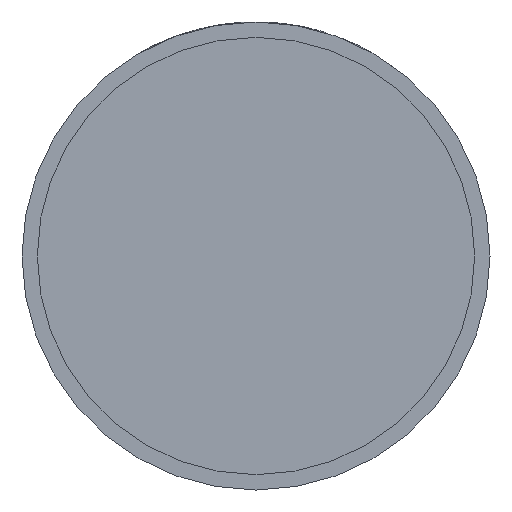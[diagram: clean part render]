
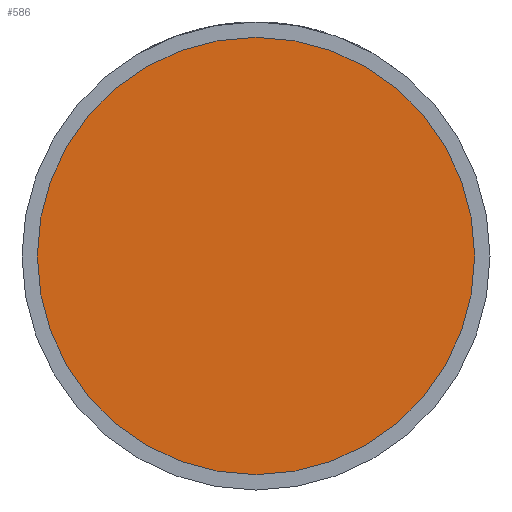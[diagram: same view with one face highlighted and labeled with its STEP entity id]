
A CAD part, front view. The second image highlights one B-rep face of the part: STEP entity #586.
In plain terms, the highlighted planar face has unit normal (0, -1, 0).
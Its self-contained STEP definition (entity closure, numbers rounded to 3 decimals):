
#52 = DIRECTION ( 'NONE',  ( 0., -1., 0. ) ) ;
#66 = EDGE_LOOP ( 'NONE', ( #1967, #1469 ) ) ;
#278 = PLANE ( 'NONE',  #1937 ) ;
#502 = EDGE_CURVE ( 'NONE', #3824, #2307, #3051, .T. ) ;
#586 = ADVANCED_FACE ( 'NONE', ( #2684 ), #278, .T. ) ;
#687 = DIRECTION ( 'NONE',  ( 1., 0., 0. ) ) ;
#1353 = DIRECTION ( 'NONE',  ( 1., 0., 0. ) ) ;
#1469 = ORIENTED_EDGE ( 'NONE', *, *, #502, .T. ) ;
#1478 = CIRCLE ( 'NONE', #1833, 28.5 ) ;
#1833 = AXIS2_PLACEMENT_3D ( 'NONE', #2389, #52, #1353 ) ;
#1937 = AXIS2_PLACEMENT_3D ( 'NONE', #2034, #2344, #687 ) ;
#1967 = ORIENTED_EDGE ( 'NONE', *, *, #3827, .T. ) ;
#2034 = CARTESIAN_POINT ( 'NONE',  ( 28.5, -17.5, 0. ) ) ;
#2307 = VERTEX_POINT ( 'NONE', #3838 ) ;
#2344 = DIRECTION ( 'NONE',  ( 0., -1., 0. ) ) ;
#2353 = AXIS2_PLACEMENT_3D ( 'NONE', #3854, #2890, #2931 ) ;
#2389 = CARTESIAN_POINT ( 'NONE',  ( 0., -17.5, 0. ) ) ;
#2684 = FACE_OUTER_BOUND ( 'NONE', #66, .T. ) ;
#2709 = CARTESIAN_POINT ( 'NONE',  ( -28.5, -17.5, 0. ) ) ;
#2890 = DIRECTION ( 'NONE',  ( 0., -1., 0. ) ) ;
#2931 = DIRECTION ( 'NONE',  ( 1., 0., 0. ) ) ;
#3051 = CIRCLE ( 'NONE', #2353, 28.5 ) ;
#3824 = VERTEX_POINT ( 'NONE', #2709 ) ;
#3827 = EDGE_CURVE ( 'NONE', #2307, #3824, #1478, .T. ) ;
#3838 = CARTESIAN_POINT ( 'NONE',  ( 28.5, -17.5, 0. ) ) ;
#3854 = CARTESIAN_POINT ( 'NONE',  ( 0., -17.5, 0. ) ) ;
